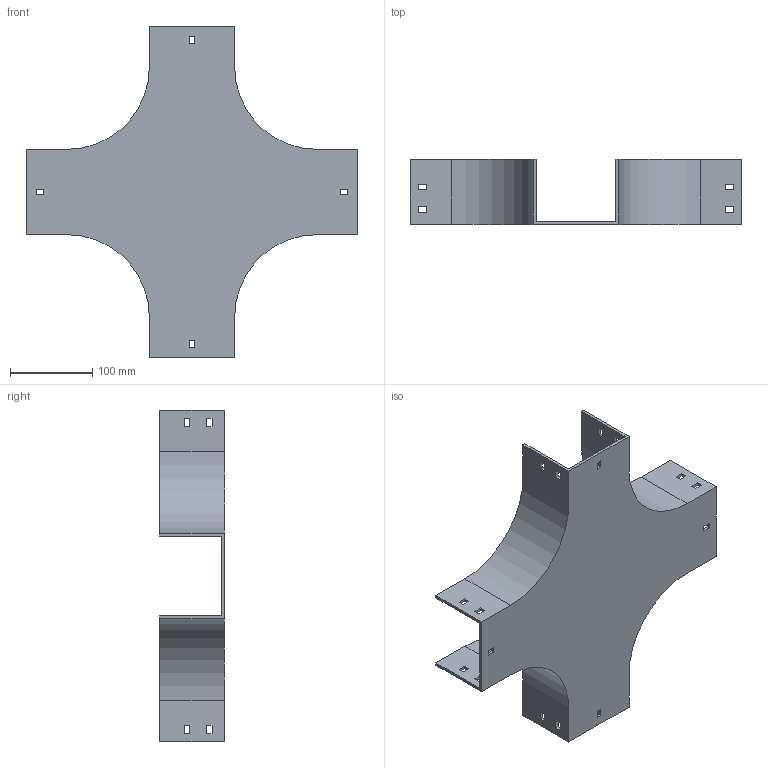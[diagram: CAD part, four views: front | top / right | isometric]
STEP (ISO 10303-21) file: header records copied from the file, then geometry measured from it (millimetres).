
FILE_DESCRIPTION (( 'STEP AP214' ), '1' );
FILE_NAME ('17B1C100.step', '2025-02-21T09:58:07', ( '' ), ( '' ), 'SwSTEP 2.0', 'SolidWorks 2023', '' );
FILE_SCHEMA (( 'AUTOMOTIVE_DESIGN' ));
Length unit declared in the file: millimetre
Products named in the file (1): 17B1C100
Bounding box: 404 x 79 x 404 mm (x, y, z)
Volume: 556200 mm3; surface area: 327335.7 mm2
Topology: 1 solids, 1 shells, 114 faces, 336 edges, 224 vertices
Faces by surface type: plane 106, cylinder 8
Entity records: 3839 total; most frequent: CARTESIAN_POINT 675, ORIENTED_EDGE 672, DIRECTION 582, EDGE_CURVE 336, LINE 320, VECTOR 320, VERTEX_POINT 224, EDGE_LOOP 154
